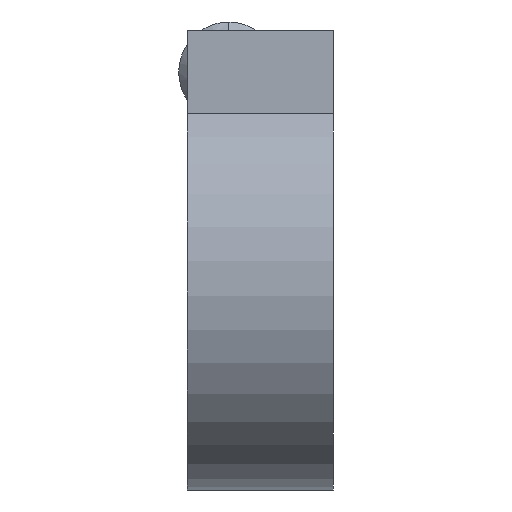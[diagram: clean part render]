
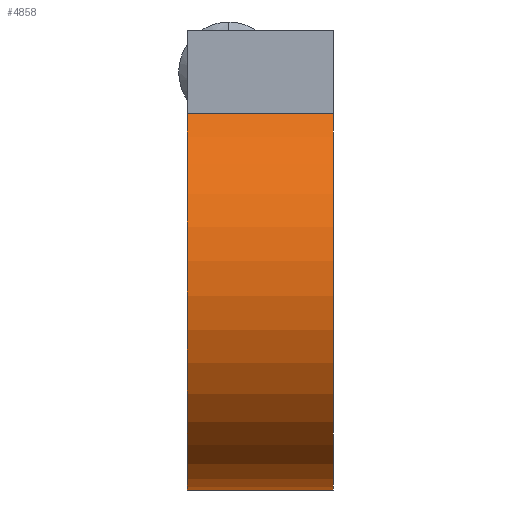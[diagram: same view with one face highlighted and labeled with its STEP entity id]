
A CAD part, left-side view. The second image highlights one B-rep face of the part: STEP entity #4858.
In plain terms, the highlighted cylindrical face has radius 50 mm (diameter 100 mm), a partial arc.
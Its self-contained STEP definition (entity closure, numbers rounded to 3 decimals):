
#15 = EDGE_CURVE ( 'NONE', #2556, #9043, #2945, .T. ) ;
#241 = LINE ( 'NONE', #6809, #5343 ) ;
#920 = CARTESIAN_POINT ( 'NONE',  ( -30., 0., 40. ) ) ;
#982 = ORIENTED_EDGE ( 'NONE', *, *, #2708, .T. ) ;
#1978 = CARTESIAN_POINT ( 'NONE',  ( 0., 0., 0. ) ) ;
#2257 = LINE ( 'NONE', #12091, #7178 ) ;
#2339 = CARTESIAN_POINT ( 'NONE',  ( 0., 35., 0. ) ) ;
#2513 = CIRCLE ( 'NONE', #13823, 50. ) ;
#2556 = VERTEX_POINT ( 'NONE', #920 ) ;
#2708 = EDGE_CURVE ( 'NONE', #2556, #12900, #2257, .T. ) ;
#2945 = CIRCLE ( 'NONE', #4968, 50. ) ;
#3331 = DIRECTION ( 'NONE',  ( 0., 0., -1. ) ) ;
#4603 = CYLINDRICAL_SURFACE ( 'NONE', #10791, 50. ) ;
#4858 = ADVANCED_FACE ( 'NONE', ( #6798 ), #4603, .T. ) ;
#4968 = AXIS2_PLACEMENT_3D ( 'NONE', #1978, #13868, #6494 ) ;
#5343 = VECTOR ( 'NONE', #11787, 1000. ) ;
#5730 = CARTESIAN_POINT ( 'NONE',  ( 0., 35., -50. ) ) ;
#6162 = CARTESIAN_POINT ( 'NONE',  ( 0., 35., 0. ) ) ;
#6494 = DIRECTION ( 'NONE',  ( 0., 0., 1. ) ) ;
#6497 = EDGE_CURVE ( 'NONE', #8180, #12900, #2513, .T. ) ;
#6798 = FACE_OUTER_BOUND ( 'NONE', #6823, .T. ) ;
#6809 = CARTESIAN_POINT ( 'NONE',  ( 0., 35., -50. ) ) ;
#6823 = EDGE_LOOP ( 'NONE', ( #11540, #13602, #7807, #982 ) ) ;
#7178 = VECTOR ( 'NONE', #13300, 1000. ) ;
#7307 = DIRECTION ( 'NONE',  ( 0., 0., 1. ) ) ;
#7807 = ORIENTED_EDGE ( 'NONE', *, *, #15, .F. ) ;
#8180 = VERTEX_POINT ( 'NONE', #5730 ) ;
#9043 = VERTEX_POINT ( 'NONE', #10673 ) ;
#9994 = DIRECTION ( 'NONE',  ( 0., -1., 0. ) ) ;
#10673 = CARTESIAN_POINT ( 'NONE',  ( 0., 0., -50. ) ) ;
#10791 = AXIS2_PLACEMENT_3D ( 'NONE', #2339, #9994, #3331 ) ;
#11321 = CARTESIAN_POINT ( 'NONE',  ( -30., 35., 40. ) ) ;
#11540 = ORIENTED_EDGE ( 'NONE', *, *, #6497, .F. ) ;
#11787 = DIRECTION ( 'NONE',  ( 0., -1., 0. ) ) ;
#12091 = CARTESIAN_POINT ( 'NONE',  ( -30., 0., 40. ) ) ;
#12816 = DIRECTION ( 'NONE',  ( 0., 1., 0. ) ) ;
#12900 = VERTEX_POINT ( 'NONE', #11321 ) ;
#13300 = DIRECTION ( 'NONE',  ( 0., 1., 0. ) ) ;
#13356 = EDGE_CURVE ( 'NONE', #8180, #9043, #241, .T. ) ;
#13602 = ORIENTED_EDGE ( 'NONE', *, *, #13356, .T. ) ;
#13823 = AXIS2_PLACEMENT_3D ( 'NONE', #6162, #12816, #7307 ) ;
#13868 = DIRECTION ( 'NONE',  ( 0., -1., 0. ) ) ;
